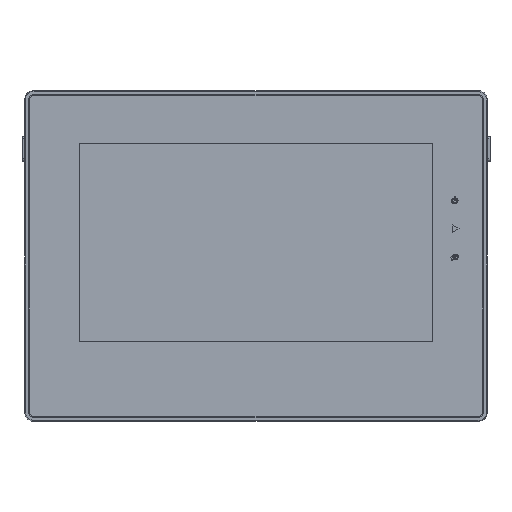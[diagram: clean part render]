
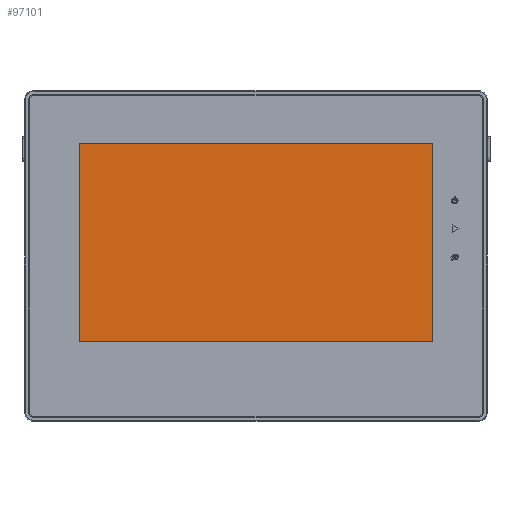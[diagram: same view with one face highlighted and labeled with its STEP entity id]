
A CAD part, top view. The second image highlights one B-rep face of the part: STEP entity #97101.
In plain terms, the highlighted planar face has unit normal (0, 0, 1).
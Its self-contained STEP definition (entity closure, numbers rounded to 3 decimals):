
#10004=FACE_OUTER_BOUND('',#15600,.T.);
#15600=EDGE_LOOP('',(#82533,#82534,#82535,#82536));
#25351=LINE('',#162454,#36162);
#25353=LINE('',#162458,#36164);
#25355=LINE('',#162462,#36166);
#25357=LINE('',#162465,#36168);
#36162=VECTOR('',#124644,1.);
#36164=VECTOR('',#124648,1.);
#36166=VECTOR('',#124652,1.);
#36168=VECTOR('',#124656,1.);
#45453=VERTEX_POINT('',#162451);
#45454=VERTEX_POINT('',#162453);
#45455=VERTEX_POINT('',#162457);
#45456=VERTEX_POINT('',#162461);
#58161=EDGE_CURVE('',#45453,#45454,#25351,.T.);
#58163=EDGE_CURVE('',#45454,#45455,#25353,.T.);
#58165=EDGE_CURVE('',#45455,#45456,#25355,.T.);
#58167=EDGE_CURVE('',#45456,#45453,#25357,.T.);
#82533=ORIENTED_EDGE('',*,*,#58161,.F.);
#82534=ORIENTED_EDGE('',*,*,#58167,.F.);
#82535=ORIENTED_EDGE('',*,*,#58165,.F.);
#82536=ORIENTED_EDGE('',*,*,#58163,.F.);
#92404=PLANE('',#103707);
#97101=ADVANCED_FACE('',(#10004),#92404,.T.);
#103707=AXIS2_PLACEMENT_3D('',#162466,#124657,#124658);
#124644=DIRECTION('',(1.,0.,0.));
#124648=DIRECTION('',(0.,-1.,0.));
#124652=DIRECTION('',(-1.,0.,0.));
#124656=DIRECTION('',(0.,1.,0.));
#124657=DIRECTION('center_axis',(0.,0.,1.));
#124658=DIRECTION('ref_axis',(1.,0.,0.));
#162451=CARTESIAN_POINT('',(-77.59,49.51,3.95));
#162453=CARTESIAN_POINT('',(77.59,49.51,3.95));
#162454=CARTESIAN_POINT('',(-77.59,49.51,3.95));
#162457=CARTESIAN_POINT('',(77.59,-37.51,3.95));
#162458=CARTESIAN_POINT('',(77.59,49.51,3.95));
#162461=CARTESIAN_POINT('',(-77.59,-37.51,3.95));
#162462=CARTESIAN_POINT('',(77.59,-37.51,3.95));
#162465=CARTESIAN_POINT('',(-77.59,-37.51,3.95));
#162466=CARTESIAN_POINT('Origin',(0.,0.,3.95));
